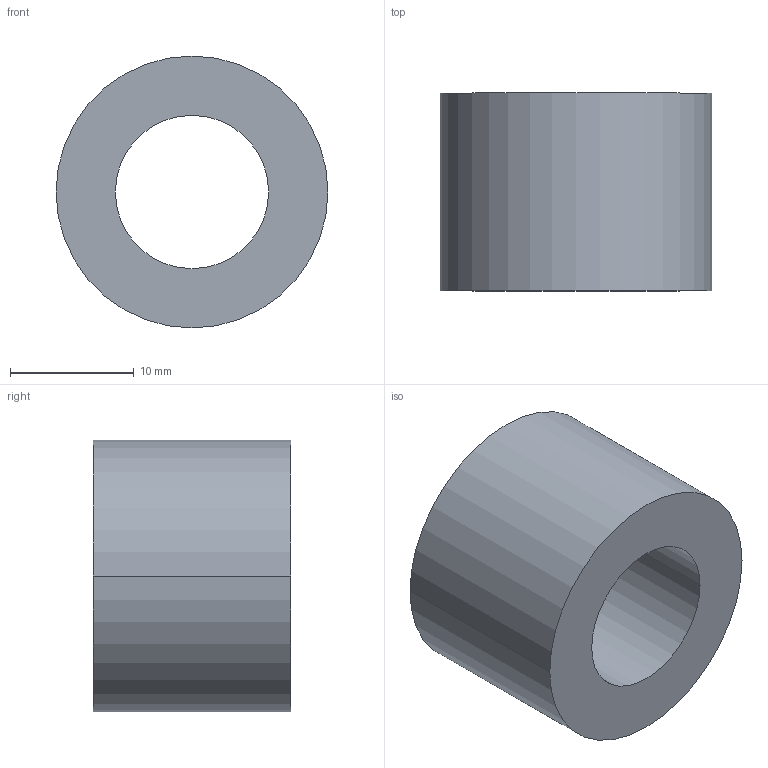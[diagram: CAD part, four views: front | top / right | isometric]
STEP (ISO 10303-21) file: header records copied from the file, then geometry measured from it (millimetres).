
FILE_DESCRIPTION (( 'STEP AP203' ), '1' );
FILE_NAME ('30800.WPP22F12.4.step', '2019-01-23T22:39:23', ( '' ), ( '' ), 'SwSTEP 2.0', 'SolidWorks 2017', '' );
FILE_SCHEMA (( 'CONFIG_CONTROL_DESIGN' ));
Length unit declared in the file: millimetre
Products named in the file (1): 30800.WPP22F12.4
Bounding box: 22 x 16 x 22 mm (x, y, z)
Volume: 4114.1 mm3; surface area: 2216.2 mm2
Topology: 1 solids, 1 shells, 8 faces, 16 edges, 10 vertices
Faces by surface type: cylinder 4, torus 2, plane 2
Entity records: 297 total; most frequent: DIRECTION 46, CARTESIAN_POINT 35, ORIENTED_EDGE 32, AXIS2_PLACEMENT_3D 21, EDGE_CURVE 16, CIRCLE 12, VERTEX_POINT 10, EDGE_LOOP 10
